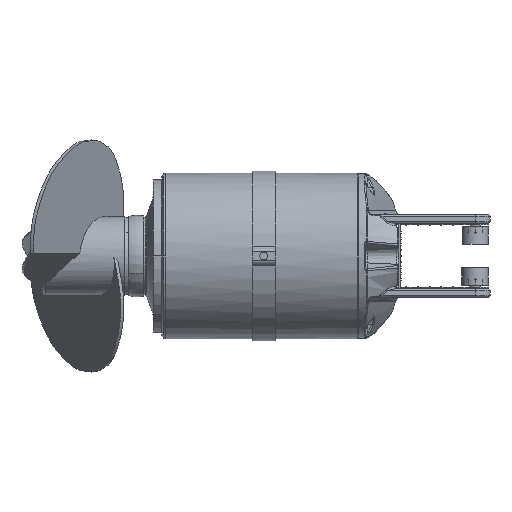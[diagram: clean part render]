
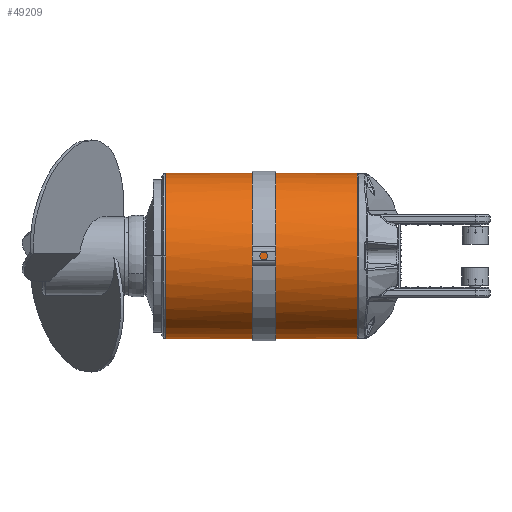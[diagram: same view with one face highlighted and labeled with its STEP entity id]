
A CAD part, front view. The second image highlights one B-rep face of the part: STEP entity #49209.
In plain terms, the highlighted cylindrical face has radius 141.121 mm (diameter 282.243 mm), a partial arc.
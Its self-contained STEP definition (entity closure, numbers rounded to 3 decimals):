
#179 = VERTEX_POINT ( 'NONE', #52269 ) ;
#244 = CARTESIAN_POINT ( 'NONE',  ( -400., 0., 0. ) ) ;
#344 = AXIS2_PLACEMENT_3D ( 'NONE', #6426, #38655, #11066 ) ;
#1632 = EDGE_CURVE ( 'NONE', #51311, #12873, #28207, .T. ) ;
#1890 = VECTOR ( 'NONE', #39025, 1000. ) ;
#2221 = CARTESIAN_POINT ( 'NONE',  ( -212.5, 0., 0. ) ) ;
#2338 = CIRCLE ( 'NONE', #55143, 141.122 ) ;
#3692 = EDGE_CURVE ( 'NONE', #37883, #32419, #55437, .T. ) ;
#4084 = DIRECTION ( 'NONE',  ( 0., -1., 0. ) ) ;
#4305 = VECTOR ( 'NONE', #58979, 1000. ) ;
#4873 = DIRECTION ( 'NONE',  ( 0., 0., -1. ) ) ;
#6010 = CARTESIAN_POINT ( 'NONE',  ( -73., 0., 0. ) ) ;
#6426 = CARTESIAN_POINT ( 'NONE',  ( -252.5, 0., 0. ) ) ;
#6775 = CARTESIAN_POINT ( 'NONE',  ( -400., 0., -141.121 ) ) ;
#6843 = DIRECTION ( 'NONE',  ( 0., -1., 0. ) ) ;
#8131 = EDGE_CURVE ( 'NONE', #12873, #39428, #12690, .T. ) ;
#8435 = EDGE_LOOP ( 'NONE', ( #20870, #52706, #11383, #19220, #24455, #33993, #58920, #13626, #16039, #49052, #12253, #30702 ) ) ;
#9636 = CARTESIAN_POINT ( 'NONE',  ( -400., 0., 141.122 ) ) ;
#10653 = DIRECTION ( 'NONE',  ( 0., 0., -1. ) ) ;
#10988 = DIRECTION ( 'NONE',  ( 1., 0., 0. ) ) ;
#11066 = DIRECTION ( 'NONE',  ( 0., -1., 0. ) ) ;
#11194 = CARTESIAN_POINT ( 'NONE',  ( -400., 0., 141.122 ) ) ;
#11383 = ORIENTED_EDGE ( 'NONE', *, *, #18679, .T. ) ;
#11657 = AXIS2_PLACEMENT_3D ( 'NONE', #6010, #38248, #10653 ) ;
#11825 = CARTESIAN_POINT ( 'NONE',  ( -252.5, -140.297, -15.232 ) ) ;
#12253 = ORIENTED_EDGE ( 'NONE', *, *, #55157, .F. ) ;
#12561 = CIRCLE ( 'NONE', #25332, 141.122 ) ;
#12690 = LINE ( 'NONE', #53275, #37202 ) ;
#12873 = VERTEX_POINT ( 'NONE', #22886 ) ;
#13626 = ORIENTED_EDGE ( 'NONE', *, *, #54811, .F. ) ;
#14176 = LINE ( 'NONE', #6775, #1890 ) ;
#14793 = CARTESIAN_POINT ( 'NONE',  ( -252.5, 0., 0. ) ) ;
#14944 = CIRCLE ( 'NONE', #344, 141.122 ) ;
#16039 = ORIENTED_EDGE ( 'NONE', *, *, #8131, .F. ) ;
#17404 = VERTEX_POINT ( 'NONE', #37163 ) ;
#18613 = DIRECTION ( 'NONE',  ( -1., 0., 0. ) ) ;
#18679 = EDGE_CURVE ( 'NONE', #19000, #33834, #14176, .T. ) ;
#18691 = VECTOR ( 'NONE', #38990, 1000. ) ;
#18695 = AXIS2_PLACEMENT_3D ( 'NONE', #43224, #10988, #29298 ) ;
#18835 = CYLINDRICAL_SURFACE ( 'NONE', #18695, 141.122 ) ;
#19000 = VERTEX_POINT ( 'NONE', #32215 ) ;
#19220 = ORIENTED_EDGE ( 'NONE', *, *, #43426, .T. ) ;
#19391 = CARTESIAN_POINT ( 'NONE',  ( -236.5, -140.297, -15.232 ) ) ;
#19413 = DIRECTION ( 'NONE',  ( 0., -1., 0. ) ) ;
#20843 = EDGE_CURVE ( 'NONE', #179, #25991, #43298, .T. ) ;
#20870 = ORIENTED_EDGE ( 'NONE', *, *, #3692, .F. ) ;
#22267 = VECTOR ( 'NONE', #45867, 1000. ) ;
#22886 = CARTESIAN_POINT ( 'NONE',  ( -212.5, 0., 141.122 ) ) ;
#22920 = CARTESIAN_POINT ( 'NONE',  ( -236.5, -140.297, 15.232 ) ) ;
#23012 = CIRCLE ( 'NONE', #11657, 141.122 ) ;
#24271 = AXIS2_PLACEMENT_3D ( 'NONE', #2221, #34448, #6843 ) ;
#24455 = ORIENTED_EDGE ( 'NONE', *, *, #53240, .F. ) ;
#25116 = LINE ( 'NONE', #22920, #22267 ) ;
#25332 = AXIS2_PLACEMENT_3D ( 'NONE', #244, #32465, #4873 ) ;
#25660 = DIRECTION ( 'NONE',  ( 1., 0., 0. ) ) ;
#25805 = CARTESIAN_POINT ( 'NONE',  ( -212.5, -140.297, 15.232 ) ) ;
#25991 = VERTEX_POINT ( 'NONE', #42429 ) ;
#28207 = CIRCLE ( 'NONE', #24271, 141.122 ) ;
#28411 = CARTESIAN_POINT ( 'NONE',  ( -252.5, 0., 141.122 ) ) ;
#28423 = CARTESIAN_POINT ( 'NONE',  ( -252.5, 0., -141.121 ) ) ;
#29298 = DIRECTION ( 'NONE',  ( 0., 0., -1. ) ) ;
#30702 = ORIENTED_EDGE ( 'NONE', *, *, #35210, .T. ) ;
#31065 = AXIS2_PLACEMENT_3D ( 'NONE', #59277, #31690, #4084 ) ;
#31690 = DIRECTION ( 'NONE',  ( -1., 0., 0. ) ) ;
#32215 = CARTESIAN_POINT ( 'NONE',  ( -400., 0., -141.121 ) ) ;
#32334 = EDGE_CURVE ( 'NONE', #37883, #19000, #12561, .T. ) ;
#32419 = VERTEX_POINT ( 'NONE', #28411 ) ;
#32465 = DIRECTION ( 'NONE',  ( 1., 0., 0. ) ) ;
#32529 = FACE_OUTER_BOUND ( 'NONE', #8435, .T. ) ;
#33834 = VERTEX_POINT ( 'NONE', #28423 ) ;
#33993 = ORIENTED_EDGE ( 'NONE', *, *, #20843, .F. ) ;
#34448 = DIRECTION ( 'NONE',  ( -1., 0., 0. ) ) ;
#35210 = EDGE_CURVE ( 'NONE', #17404, #32419, #2338, .T. ) ;
#35567 = CARTESIAN_POINT ( 'NONE',  ( -73., 0., -141.121 ) ) ;
#37163 = CARTESIAN_POINT ( 'NONE',  ( -252.5, -140.297, 15.232 ) ) ;
#37202 = VECTOR ( 'NONE', #25660, 1000. ) ;
#37710 = EDGE_CURVE ( 'NONE', #179, #40223, #39626, .T. ) ;
#37883 = VERTEX_POINT ( 'NONE', #9636 ) ;
#37991 = VERTEX_POINT ( 'NONE', #11825 ) ;
#38248 = DIRECTION ( 'NONE',  ( 1., 0., 0. ) ) ;
#38655 = DIRECTION ( 'NONE',  ( -1., 0., 0. ) ) ;
#38990 = DIRECTION ( 'NONE',  ( 1., 0., 0. ) ) ;
#39025 = DIRECTION ( 'NONE',  ( 1., 0., 0. ) ) ;
#39428 = VERTEX_POINT ( 'NONE', #39738 ) ;
#39626 = LINE ( 'NONE', #49945, #4305 ) ;
#39738 = CARTESIAN_POINT ( 'NONE',  ( -73., 0., 141.122 ) ) ;
#40223 = VERTEX_POINT ( 'NONE', #35567 ) ;
#42429 = CARTESIAN_POINT ( 'NONE',  ( -212.5, -140.297, -15.232 ) ) ;
#43224 = CARTESIAN_POINT ( 'NONE',  ( -400., 0., 0. ) ) ;
#43298 = CIRCLE ( 'NONE', #31065, 141.122 ) ;
#43426 = EDGE_CURVE ( 'NONE', #33834, #37991, #14944, .T. ) ;
#45867 = DIRECTION ( 'NONE',  ( 1., 0., 0. ) ) ;
#46185 = LINE ( 'NONE', #19391, #58405 ) ;
#47026 = DIRECTION ( 'NONE',  ( -1., 0., 0. ) ) ;
#49052 = ORIENTED_EDGE ( 'NONE', *, *, #1632, .F. ) ;
#49209 = ADVANCED_FACE ( 'NONE', ( #32529 ), #18835, .T. ) ;
#49945 = CARTESIAN_POINT ( 'NONE',  ( -400., 0., -141.121 ) ) ;
#51311 = VERTEX_POINT ( 'NONE', #25805 ) ;
#52269 = CARTESIAN_POINT ( 'NONE',  ( -212.5, 0., -141.121 ) ) ;
#52706 = ORIENTED_EDGE ( 'NONE', *, *, #32334, .T. ) ;
#53240 = EDGE_CURVE ( 'NONE', #25991, #37991, #46185, .T. ) ;
#53275 = CARTESIAN_POINT ( 'NONE',  ( -400., 0., 141.122 ) ) ;
#54811 = EDGE_CURVE ( 'NONE', #39428, #40223, #23012, .T. ) ;
#55143 = AXIS2_PLACEMENT_3D ( 'NONE', #14793, #47026, #19413 ) ;
#55157 = EDGE_CURVE ( 'NONE', #17404, #51311, #25116, .T. ) ;
#55437 = LINE ( 'NONE', #11194, #18691 ) ;
#58405 = VECTOR ( 'NONE', #18613, 1000. ) ;
#58920 = ORIENTED_EDGE ( 'NONE', *, *, #37710, .T. ) ;
#58979 = DIRECTION ( 'NONE',  ( 1., 0., 0. ) ) ;
#59277 = CARTESIAN_POINT ( 'NONE',  ( -212.5, 0., 0. ) ) ;
